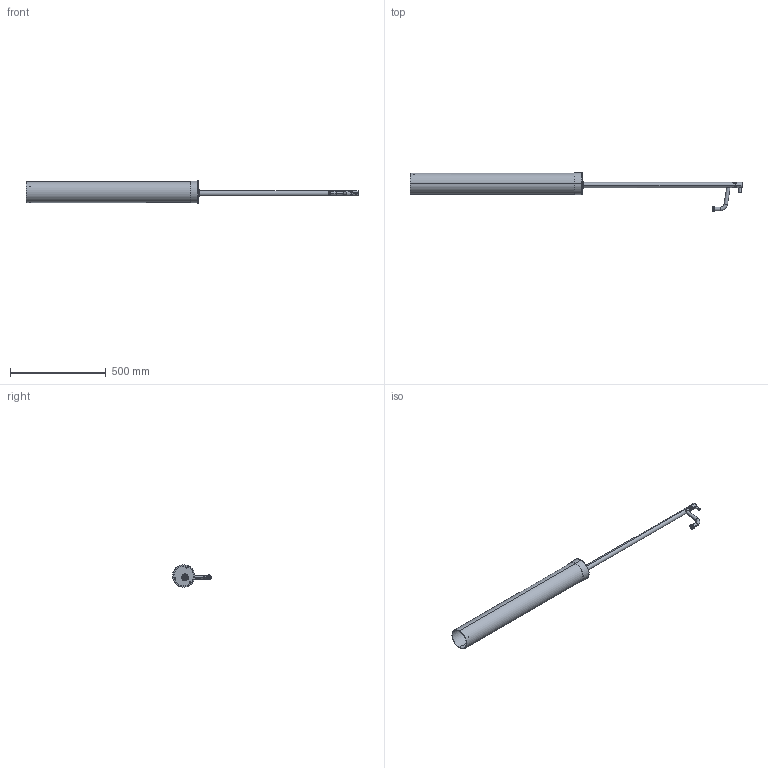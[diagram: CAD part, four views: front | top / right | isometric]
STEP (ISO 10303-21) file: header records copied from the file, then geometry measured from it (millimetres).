
FILE_DESCRIPTION (( 'STEP AP214' ), '1' );
FILE_NAME ('4510 PRO fritstående arbejdsvandpost.STEP', '2023-01-05T09:19:12', ( '' ), ( '' ), 'SwSTEP 2.0', 'SolidWorks 2022', '' );
FILE_SCHEMA (( 'AUTOMOTIVE_DESIGN' ));
Length unit declared in the file: millimetre
Products named in the file (31): Pinolskrue M6x6; U 7016-1 Ø110 Brønd 900mm; 18x2 O-ring; U 2070-5 Håndtag; U 4510-11 Stigrør svejsetegning; U 4040-19 Stålrør Ø110.2x2; 9,1x1,6 O-ring; U 4275-3 Gevindstykke; U 2070-2 Håndtag; U 2070-1 Greb; U 4012-12 Dæksel; 12x2 O-ring; U 2010-24 Stift; U 2010-19 Styrestift; U 2010-7 Låsering; 4510 PRO fritstående arbejdsvandpost; U 4275-4 Ventil; U 4275-1 Haneudløb; Ø10x1x1335 Kobberrør; U 4275-12 Spindelsamling; U 4275-5 Ventilhus; U 4041-3 Loddestuds Ø10; 20x2 O-ring; DIN965 M6x12 US; 8x2 O-ring shore90; U 4510-2 Overrør; Pinolskrue M6x5; 8x2 O-ring shore70; U 4275-6 Spindelhus; U 4275-7 Spindel; U 4510-13 Indvendig loddesamling
Assembly tree (34 placements, depth 3):
  4510 PRO fritstående arbejdsvandpost
    U 4275-5 Ventilhus
    U 4275-12 Spindelsamling
      U 4275-7 Spindel
      U 4275-6 Spindelhus
      U 2010-19 Styrestift
      20x2 O-ring
      18x2 O-ring
      12x2 O-ring
      9,1x1,6 O-ring
    U 4510-13 Indvendig loddesamling
      U 4275-4 Ventil
      Ø10x1x1335 Kobberrør
      U 4041-3 Loddestuds Ø10
      8x2 O-ring shore90
      8x2 O-ring shore70  x2
      U 2010-24 Stift
    20x2 O-ring
    U 2070-5 Håndtag
      U 2070-1 Greb
      U 2070-2 Håndtag
      Pinolskrue M6x6
    U 4510-11 Stigrør svejsetegning
      U 4510-2 Overrør
      U 4275-1 Haneudløb
      U 4275-3 Gevindstykke
    Pinolskrue M6x5
    DIN965 M6x12 US  x3
    U 7016-1 Ø110 Brønd 900mm
    U 4040-19 Stålrør Ø110.2x2
    U 4012-12 Dæksel
    U 2010-7 Låsering
Bounding box: 1738 x 203.5 x 116.73 mm (x, y, z)
Volume: 1466621.9 mm3; surface area: 1000953.7 mm2
Topology: 30 solids, 30 shells, 513 faces, 1160 edges, 713 vertices
Faces by surface type: cylinder 224, plane 159, cone 89, torus 38, bspline 3
Entity records: 16379 total; most frequent: CARTESIAN_POINT 4309, DIRECTION 2500, ORIENTED_EDGE 2076, AXIS2_PLACEMENT_3D 1042, EDGE_CURVE 1038, VERTEX_POINT 641, EDGE_LOOP 555, CIRCLE 541
